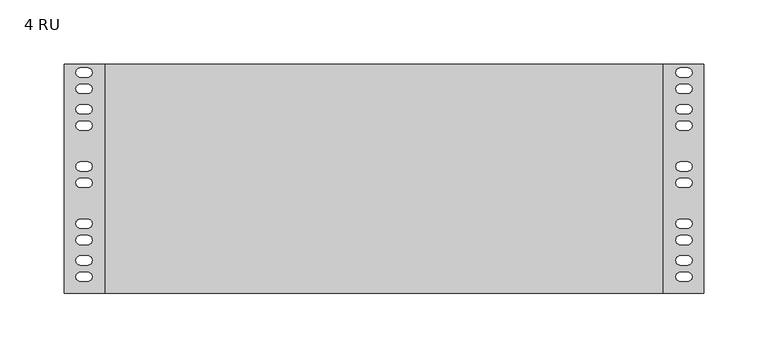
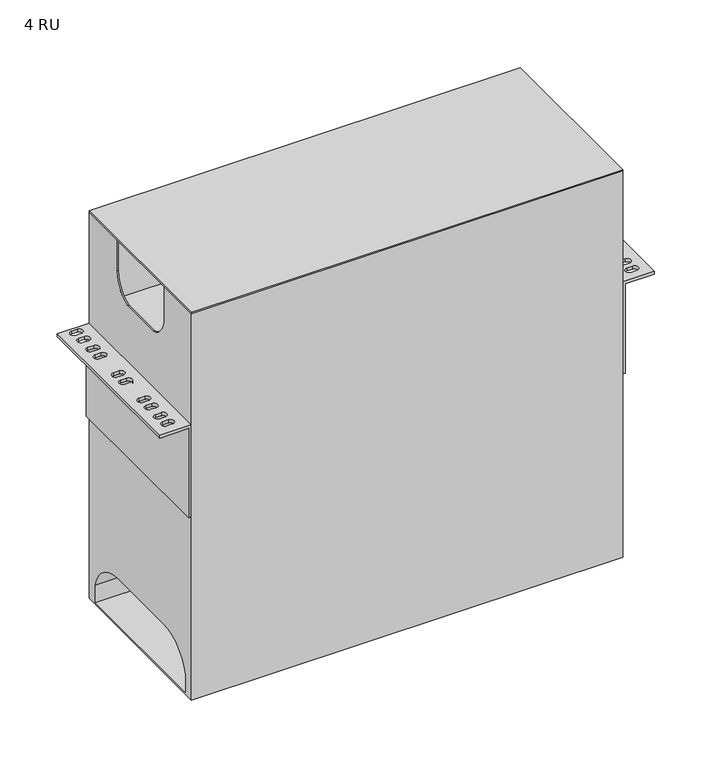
"""IFC4 building model written with IfcOpenShell, lengths in millimetres: electric appliance geometry, Housing-Rack_Mount-Corning-LANScape : 4 RU."""

from ifc_helpers import new_model, si_unit, frame, origin, place, context, project, spatial, polyline, circle_curve, outline, extrude, source, transform, mapped, element, save
from ifc_brep_helpers import plane_surface, revolved_surface, advanced_brep


def electric_appliance_4_ru_fc891053(model_context):
    return source(origin(), model_context, "Body", "SolidModel", [
        extrude(outline(polyline([(216.5858, 0.0), (216.5858, -177.8), (-216.5858, -177.8), (-216.5858, 0.0), (216.5858, 0.0)])), frame((0.0, 0.0, 120.9548), z_axis=(0.0, 0.0, 1.0), x_axis=(1.0, 0.0, 0.0)), (0.0, 0.0, 1.0), 1.39446),
        advanced_brep(
        [(216.5858, -177.8, 120.9548), (-216.5858, -177.8, 120.9548), (-216.5858, -177.8, -289.3568), (216.5858, -177.8, -289.3568), (216.5858, 0.0, 120.9548), (216.5858, 0.0, -289.3568), (-216.5858, 0.0, -289.3568), (-216.5858, 0.0, 120.9548), (216.5858, -130.812798, 120.9548), (214.9983, -130.812798, 120.9548), (214.9983, -176.2125, 120.9548), (-214.9983, -176.2125, 120.9548), (-214.9983, -130.812798, 120.9548), (-216.5858, -130.812798, 120.9548), (-216.5858, -48.107858, 120.9548), (-214.9983, -48.107858, 120.9548), (-214.9983, -1.5875, 120.9548), (214.9983, -1.5875, 120.9548), (214.9983, -48.107858, 120.9548), (216.5858, -48.107858, 120.9548), (-216.5858, -130.812798, 87.79002), (-216.5858, -111.5667166, 62.17412), (-216.5858, -67.3539395, 62.17412), (-216.5858, -48.107858, 87.79002), (-216.5858, -166.8399, -269.15872), (-216.5858, -166.8399, -287.7693), (-216.5858, -10.4648, -287.7693), (-216.5858, -10.4648, -269.15872), (-216.5858, -48.5648, -238.41202), (-216.5858, -128.95834, -238.41202), (216.5858, -48.107858, 87.79002), (216.5858, -67.3539395, 62.17412), (216.5858, -111.5667166, 62.17412), (216.5858, -130.812798, 87.79002), (216.5858, -166.8399, -287.7693), (216.5858, -166.8399, -269.15872), (216.5858, -128.95834, -238.41202), (216.5858, -48.5648, -238.41202), (216.5858, -10.4648, -269.15872), (216.5858, -10.4648, -287.7693), (-214.9983, -1.5875, 21.08454), (214.9983, -1.5875, 21.08454), (214.9983, -176.2125, 21.08454), (-214.9983, -176.2125, 21.08454), (214.9983, -130.812798, 87.79002), (214.9983, -111.5667166, 62.17412), (214.9983, -67.3539395, 62.17412), (214.9983, -48.107858, 87.79002), (-214.9983, -48.107858, 87.79002), (-214.9983, -67.3539395, 62.17412), (-214.9983, -111.5667166, 62.17412), (-214.9983, -130.812798, 87.79002)],
        [
            (0, 1),
            (1, 2),
            (2, 3),
            (3, 0),
            (4, 5),
            (5, 6),
            (6, 7),
            (7, 4),
            (0, 8),
            (8, 9),
            (9, 10),
            (10, 11),
            (11, 12),
            (12, 13),
            (13, 1),
            (7, 14),
            (14, 15),
            (15, 16),
            (16, 17),
            (17, 18),
            (18, 19),
            (19, 4),
            (13, 20),
            (20, 21, circle_curve(frame((-216.5858, -104.142798, 87.79002), z_axis=(1.0, 0.0, 0.0), x_axis=(0.0, 0.0, 1.0)), 26.67)),
            (21, 22),
            (22, 23, circle_curve(frame((-216.5858, -74.777858, 87.79002), z_axis=(1.0, 0.0, 0.0), x_axis=(0.0, 0.0, 1.0)), 26.67)),
            (23, 14),
            (6, 2),
            (24, 25),
            (25, 26),
            (26, 27),
            (27, 28, circle_curve(frame((-216.5858, -48.5648, -277.391318), z_axis=(1.0, 0.0, 0.0), x_axis=(0.0, 0.0, 1.0)), 38.979298)),
            (28, 29),
            (29, 24, circle_curve(frame((-216.5858, -128.95834, -277.1214124), z_axis=(1.0, 0.0, 0.0), x_axis=(0.0, 0.0, 1.0)), 38.7093924)),
            (5, 3),
            (19, 30),
            (30, 31, circle_curve(frame((216.5858, -74.777858, 87.79002), z_axis=(-1.0, 0.0, 0.0), x_axis=(0.0, 0.0, 1.0)), 26.67)),
            (31, 32),
            (32, 33, circle_curve(frame((216.5858, -104.142798, 87.79002), z_axis=(-1.0, 0.0, 0.0), x_axis=(0.0, 0.0, 1.0)), 26.67)),
            (33, 8),
            (34, 35),
            (35, 36, circle_curve(frame((216.5858, -128.95834, -277.1214124), z_axis=(-1.0, 0.0, 0.0), x_axis=(0.0, 0.0, 1.0)), 38.7093924)),
            (36, 37),
            (37, 38, circle_curve(frame((216.5858, -48.5648, -277.391318), z_axis=(-1.0, 0.0, 0.0), x_axis=(0.0, 0.0, 1.0)), 38.979298)),
            (38, 39),
            (39, 34),
            (16, 40),
            (40, 41),
            (41, 17),
            (10, 42),
            (42, 43),
            (43, 11),
            (41, 42),
            (9, 44),
            (44, 45, circle_curve(frame((214.9983, -104.142798, 87.79002), z_axis=(1.0, 0.0, 0.0), x_axis=(0.0, 0.0, 1.0)), 26.67)),
            (45, 46),
            (46, 47, circle_curve(frame((214.9983, -74.777858, 87.79002), z_axis=(1.0, 0.0, 0.0), x_axis=(0.0, 0.0, 1.0)), 26.67)),
            (47, 18),
            (40, 43),
            (15, 48),
            (48, 49, circle_curve(frame((-214.9983, -74.777858, 87.79002), z_axis=(-1.0, 0.0, 0.0), x_axis=(0.0, 0.0, 1.0)), 26.67)),
            (49, 50),
            (50, 51, circle_curve(frame((-214.9983, -104.142798, 87.79002), z_axis=(-1.0, 0.0, 0.0), x_axis=(0.0, 0.0, 1.0)), 26.67)),
            (51, 12),
            (33, 44),
            (51, 20),
            (32, 45),
            (50, 21),
            (31, 46),
            (49, 22),
            (30, 47),
            (48, 23),
            (24, 35),
            (34, 25),
            (39, 26),
            (38, 27),
            (37, 28),
            (36, 29),
        ],
        [
            plane_surface(frame((-216.5858, -177.8, 120.9548), z_axis=(0.0, -1.0, 0.0), x_axis=(-1.0, 0.0, 0.0))),
            plane_surface(frame((-216.5858, 0.0, 120.9548), z_axis=(0.0, 1.0, 0.0), x_axis=(1.0, 0.0, 0.0))),
            plane_surface(frame((216.5858, -177.8, 120.9548), z_axis=(0.0, 0.0, 1.0), x_axis=(0.0, 1.0, 0.0))),
            plane_surface(frame((-216.5858, -177.8, 120.9548), z_axis=(-1.0, 0.0, 0.0), x_axis=(0.0, 1.0, 0.0))),
            plane_surface(frame((-216.5858, -177.8, -289.3568), z_axis=(0.0, 0.0, -1.0), x_axis=(0.0, 1.0, 0.0))),
            plane_surface(frame((216.5858, -177.8, -289.3568), z_axis=(1.0, 0.0, 0.0), x_axis=(0.0, 1.0, 0.0))),
            plane_surface(frame((214.9983, -1.5875, 120.9548), z_axis=(0.0, -1.0, 0.0), x_axis=(0.0, 0.0, -1.0))),
            plane_surface(frame((214.9983, -176.2125, 120.9548), z_axis=(0.0, 1.0, 0.0), x_axis=(0.0, 0.0, 1.0))),
            plane_surface(frame((214.9983, -1.5875, 120.9548), z_axis=(-1.0, 0.0, 0.0), x_axis=(0.0, -1.0, 0.0))),
            plane_surface(frame((214.9983, -1.5875, 21.08454), z_axis=(0.0, 0.0, 1.0), x_axis=(0.0, -1.0, 0.0))),
            plane_surface(frame((-214.9983, -1.5875, 21.08454), z_axis=(1.0, 0.0, 0.0), x_axis=(0.0, -1.0, 0.0))),
            plane_surface(frame((216.5858, -130.812798, 126.53518), z_axis=(0.0, 1.0, 0.0), x_axis=(-1.0, 0.0, 0.0))),
            revolved_surface(polyline([(216.58580000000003, -104.142798, 114.46002), (214.9983, -104.142798, 114.46002)]), (-222.9358, -104.142798, 87.79002), (1.0, 0.0, 0.0)),
            revolved_surface(polyline([(-214.9983, -104.142798, 114.46002), (-216.5858, -104.142798, 114.46002)]), (-222.9358, -104.142798, 87.79002), (1.0, 0.0, 0.0)),
            plane_surface(frame((216.5858, -111.5667166, 62.17412), z_axis=(0.0, 0.0, 1.0), x_axis=(-1.0, 0.0, 0.0))),
            revolved_surface(polyline([(216.58580000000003, -74.777858, 114.46002), (214.9983, -74.777858, 114.46002)]), (-222.9358, -74.777858, 87.79002), (1.0, 0.0, 0.0)),
            revolved_surface(polyline([(-214.9983, -74.777858, 114.46002), (-216.5858, -74.777858, 114.46002)]), (-222.9358, -74.777858, 87.79002), (1.0, 0.0, 0.0)),
            plane_surface(frame((216.5858, -48.107858, 87.79002), z_axis=(0.0, -1.0, 0.0), x_axis=(-1.0, 0.0, 0.0))),
            plane_surface(frame((216.5858, -166.8399, -269.15872), z_axis=(0.0, 1.0, 0.0), x_axis=(-1.0, 0.0, 0.0))),
            plane_surface(frame((216.5858, -166.8399, -287.7693), z_axis=(0.0, 0.0, 1.0), x_axis=(-1.0, 0.0, 0.0))),
            plane_surface(frame((216.5858, -10.4648, -287.7693), z_axis=(0.0, -1.0, 0.0), x_axis=(-1.0, 0.0, 0.0))),
            revolved_surface(polyline([(216.58580000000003, -48.5648, -238.41202), (-216.5858, -48.5648, -238.41202)]), (-222.9358, -48.5648, -277.391318), (1.0, 0.0, 0.0)),
            plane_surface(frame((216.5858, -48.5648, -238.41202), z_axis=(0.0, 0.0, -1.0), x_axis=(-1.0, 0.0, 0.0))),
            revolved_surface(polyline([(216.58580000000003, -128.95834, -238.41201999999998), (-216.5858, -128.95834, -238.41201999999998)]), (-222.9358, -128.95834, -277.1214124), (1.0, 0.0, 0.0)),
        ],
        [
            (0, [[1, 2, 3, 4]]),
            (1, [[5, 6, 7, 8]]),
            (2, [[-1, 9, 10, 11, 12, 13, 14, 15]]),
            (2, [[-8, 16, 17, 18, 19, 20, 21, 22]]),
            (3, [[-2, -15, 23, 24, 25, 26, 27, -16, -7, 28], [29, 30, 31, 32, 33, 34]]),
            (4, [[-3, -28, -6, 35]]),
            (5, [[-4, -35, -5, -22, 36, 37, 38, 39, 40, -9], [41, 42, 43, 44, 45, 46]]),
            (6, [[47, 48, 49, -19]]),
            (7, [[50, 51, 52, -12]]),
            (8, [[-49, 53, -50, -11, 54, 55, 56, 57, 58, -20]]),
            (9, [[-48, 59, -51, -53]]),
            (10, [[-47, -18, 60, 61, 62, 63, 64, -13, -52, -59]]),
            (11, [[65, -54, -10, -40]]),
            (11, [[66, -23, -14, -64]]),
            (12, [[-65, -39, 67, -55]]),
            (13, [[-66, -63, 68, -24]]),
            (14, [[-67, -38, 69, -56]]),
            (14, [[-68, -62, 70, -25]]),
            (15, [[-69, -37, 71, -57]]),
            (16, [[-70, -61, 72, -26]]),
            (17, [[-71, -36, -21, -58]]),
            (17, [[-72, -60, -17, -27]]),
            (18, [[73, -41, 74, -29]]),
            (19, [[-74, -46, 75, -30]]),
            (20, [[-75, -45, 76, -31]]),
            (21, [[-76, -44, 77, -32]]),
            (22, [[-77, -43, 78, -33]]),
            (23, [[-73, -34, -78, -42]]),
        ],
    ),
        advanced_brep(
        [(-248.4374, -177.8, 0.0), (-219.45346, -177.8, 0.0), (-219.45346, -177.8, -94.74708), (-216.5858, -177.8, -94.74708), (-216.5858, -177.8, 3.05054), (-248.4374, -177.8, 3.05054), (-248.4374, 0.0, 0.0), (-248.4374, 0.0, 3.05054), (-216.5858, 0.0, 3.05054), (-216.5858, 0.0, -94.74708), (-219.45346, 0.0, -94.74708), (-219.45346, 0.0, 0.0), (-230.3272, -2.794, 0.0), (-235.9152, -2.794, 0.0), (-235.9152, -9.906, 0.0), (-230.3272, -9.906, 0.0), (-230.3272, -15.494, 0.0), (-235.9152, -15.494, 0.0), (-235.9152, -22.606, 0.0), (-230.3272, -22.606, 0.0), (-230.3272, -31.369, 0.0), (-235.9152, -31.369, 0.0), (-235.9152, -38.481, 0.0), (-230.3272, -38.481, 0.0), (-230.3272, -44.069, 0.0), (-235.9152, -44.069, 0.0), (-235.9152, -51.181, 0.0), (-230.3272, -51.181, 0.0), (-230.3272, -75.819, 0.0), (-235.9152, -75.819, 0.0), (-235.9152, -82.931, 0.0), (-230.3272, -82.931, 0.0), (-230.3272, -88.519, 0.0), (-235.9152, -88.519, 0.0), (-235.9152, -95.631, 0.0), (-230.3272, -95.631, 0.0), (-230.3272, -120.269, 0.0), (-235.9152, -120.269, 0.0), (-235.9152, -127.381, 0.0), (-230.3272, -127.381, 0.0), (-230.3272, -132.969, 0.0), (-235.9152, -132.969, 0.0), (-235.9152, -140.081, 0.0), (-230.3272, -140.081, 0.0), (-230.3272, -148.844, 0.0), (-235.9152, -148.844, 0.0), (-235.9152, -155.956, 0.0), (-230.3272, -155.956, 0.0), (-230.3272, -161.544, 0.0), (-235.9152, -161.544, 0.0), (-235.9152, -168.656, 0.0), (-230.3272, -168.656, 0.0), (-235.9152, -2.794, 3.05054), (-230.3272, -2.794, 3.05054), (-230.3272, -9.906, 3.05054), (-235.9152, -9.906, 3.05054), (-235.9152, -15.494, 3.05054), (-230.3272, -15.494, 3.05054), (-230.3272, -22.606, 3.05054), (-235.9152, -22.606, 3.05054), (-235.9152, -31.369, 3.05054), (-230.3272, -31.369, 3.05054), (-230.3272, -38.481, 3.05054), (-235.9152, -38.481, 3.05054), (-235.9152, -44.069, 3.05054), (-230.3272, -44.069, 3.05054), (-230.3272, -51.181, 3.05054), (-235.9152, -51.181, 3.05054), (-235.9152, -75.819, 3.05054), (-230.3272, -75.819, 3.05054), (-230.3272, -82.931, 3.05054), (-235.9152, -82.931, 3.05054), (-235.9152, -88.519, 3.05054), (-230.3272, -88.519, 3.05054), (-230.3272, -95.631, 3.05054), (-235.9152, -95.631, 3.05054), (-235.9152, -120.269, 3.05054), (-230.3272, -120.269, 3.05054), (-230.3272, -127.381, 3.05054), (-235.9152, -127.381, 3.05054), (-235.9152, -132.969, 3.05054), (-230.3272, -132.969, 3.05054), (-230.3272, -140.081, 3.05054), (-235.9152, -140.081, 3.05054), (-235.9152, -148.844, 3.05054), (-230.3272, -148.844, 3.05054), (-230.3272, -155.956, 3.05054), (-235.9152, -155.956, 3.05054), (-235.9152, -161.544, 3.05054), (-230.3272, -161.544, 3.05054), (-230.3272, -168.656, 3.05054), (-235.9152, -168.656, 3.05054)],
        [
            (0, 1),
            (1, 2),
            (2, 3),
            (3, 4),
            (4, 5),
            (5, 0),
            (6, 7),
            (7, 8),
            (8, 9),
            (9, 10),
            (10, 11),
            (11, 6),
            (0, 6),
            (11, 1),
            (12, 13),
            (13, 14, circle_curve(frame((-235.9152, -6.35, 0.0), z_axis=(0.0, 0.0, 1.0), x_axis=(-1.0, 0.0, 0.0)), 3.556)),
            (14, 15),
            (15, 12, circle_curve(frame((-230.3272, -6.35, 0.0), z_axis=(0.0, 0.0, 1.0), x_axis=(-1.0, 0.0, 0.0)), 3.556)),
            (16, 17),
            (17, 18, circle_curve(frame((-235.9152, -19.05, 0.0), z_axis=(0.0, 0.0, 1.0), x_axis=(-1.0, 0.0, 0.0)), 3.556)),
            (18, 19),
            (19, 16, circle_curve(frame((-230.3272, -19.05, 0.0), z_axis=(0.0, 0.0, 1.0), x_axis=(-1.0, 0.0, 0.0)), 3.556)),
            (20, 21),
            (21, 22, circle_curve(frame((-235.9152, -34.925, 0.0), z_axis=(0.0, 0.0, 1.0), x_axis=(-1.0, 0.0, 0.0)), 3.556)),
            (22, 23),
            (23, 20, circle_curve(frame((-230.3272, -34.925, 0.0), z_axis=(0.0, 0.0, 1.0), x_axis=(-1.0, 0.0, 0.0)), 3.556)),
            (24, 25),
            (25, 26, circle_curve(frame((-235.9152, -47.625, 0.0), z_axis=(0.0, 0.0, 1.0), x_axis=(-1.0, 0.0, 0.0)), 3.556)),
            (26, 27),
            (27, 24, circle_curve(frame((-230.3272, -47.625, 0.0), z_axis=(0.0, 0.0, 1.0), x_axis=(-1.0, 0.0, 0.0)), 3.556)),
            (28, 29),
            (29, 30, circle_curve(frame((-235.9152, -79.375, 0.0), z_axis=(0.0, 0.0, 1.0), x_axis=(-1.0, 0.0, 0.0)), 3.556)),
            (30, 31),
            (31, 28, circle_curve(frame((-230.3272, -79.375, 0.0), z_axis=(0.0, 0.0, 1.0), x_axis=(-1.0, 0.0, 0.0)), 3.556)),
            (32, 33),
            (33, 34, circle_curve(frame((-235.9152, -92.075, 0.0), z_axis=(0.0, 0.0, 1.0), x_axis=(-1.0, 0.0, 0.0)), 3.556)),
            (34, 35),
            (35, 32, circle_curve(frame((-230.3272, -92.075, 0.0), z_axis=(0.0, 0.0, 1.0), x_axis=(-1.0, 0.0, 0.0)), 3.556)),
            (36, 37),
            (37, 38, circle_curve(frame((-235.9152, -123.825, 0.0), z_axis=(0.0, 0.0, 1.0), x_axis=(-1.0, 0.0, 0.0)), 3.556)),
            (38, 39),
            (39, 36, circle_curve(frame((-230.3272, -123.825, 0.0), z_axis=(0.0, 0.0, 1.0), x_axis=(-1.0, 0.0, 0.0)), 3.556)),
            (40, 41),
            (41, 42, circle_curve(frame((-235.9152, -136.525, 0.0), z_axis=(0.0, 0.0, 1.0), x_axis=(-1.0, 0.0, 0.0)), 3.556)),
            (42, 43),
            (43, 40, circle_curve(frame((-230.3272, -136.525, 0.0), z_axis=(0.0, 0.0, 1.0), x_axis=(-1.0, 0.0, 0.0)), 3.556)),
            (44, 45),
            (45, 46, circle_curve(frame((-235.9152, -152.4, 0.0), z_axis=(0.0, 0.0, 1.0), x_axis=(-1.0, 0.0, 0.0)), 3.556)),
            (46, 47),
            (47, 44, circle_curve(frame((-230.3272, -152.4, 0.0), z_axis=(0.0, 0.0, 1.0), x_axis=(-1.0, 0.0, 0.0)), 3.556)),
            (48, 49),
            (49, 50, circle_curve(frame((-235.9152, -165.1, 0.0), z_axis=(0.0, 0.0, 1.0), x_axis=(-1.0, 0.0, 0.0)), 3.556)),
            (50, 51),
            (51, 48, circle_curve(frame((-230.3272, -165.1, 0.0), z_axis=(0.0, 0.0, 1.0), x_axis=(-1.0, 0.0, 0.0)), 3.556)),
            (10, 2),
            (9, 3),
            (8, 4),
            (7, 5),
            (52, 53),
            (53, 54, circle_curve(frame((-230.3272, -6.35, 3.05054), z_axis=(0.0, 0.0, -1.0), x_axis=(-1.0, 0.0, 0.0)), 3.556)),
            (54, 55),
            (55, 52, circle_curve(frame((-235.9152, -6.35, 3.05054), z_axis=(0.0, 0.0, -1.0), x_axis=(-1.0, 0.0, 0.0)), 3.556)),
            (56, 57),
            (57, 58, circle_curve(frame((-230.3272, -19.05, 3.05054), z_axis=(0.0, 0.0, -1.0), x_axis=(-1.0, 0.0, 0.0)), 3.556)),
            (58, 59),
            (59, 56, circle_curve(frame((-235.9152, -19.05, 3.05054), z_axis=(0.0, 0.0, -1.0), x_axis=(-1.0, 0.0, 0.0)), 3.556)),
            (60, 61),
            (61, 62, circle_curve(frame((-230.3272, -34.925, 3.05054), z_axis=(0.0, 0.0, -1.0), x_axis=(-1.0, 0.0, 0.0)), 3.556)),
            (62, 63),
            (63, 60, circle_curve(frame((-235.9152, -34.925, 3.05054), z_axis=(0.0, 0.0, -1.0), x_axis=(-1.0, 0.0, 0.0)), 3.556)),
            (64, 65),
            (65, 66, circle_curve(frame((-230.3272, -47.625, 3.05054), z_axis=(0.0, 0.0, -1.0), x_axis=(-1.0, 0.0, 0.0)), 3.556)),
            (66, 67),
            (67, 64, circle_curve(frame((-235.9152, -47.625, 3.05054), z_axis=(0.0, 0.0, -1.0), x_axis=(-1.0, 0.0, 0.0)), 3.556)),
            (68, 69),
            (69, 70, circle_curve(frame((-230.3272, -79.375, 3.05054), z_axis=(0.0, 0.0, -1.0), x_axis=(-1.0, 0.0, 0.0)), 3.556)),
            (70, 71),
            (71, 68, circle_curve(frame((-235.9152, -79.375, 3.05054), z_axis=(0.0, 0.0, -1.0), x_axis=(-1.0, 0.0, 0.0)), 3.556)),
            (72, 73),
            (73, 74, circle_curve(frame((-230.3272, -92.075, 3.05054), z_axis=(0.0, 0.0, -1.0), x_axis=(-1.0, 0.0, 0.0)), 3.556)),
            (74, 75),
            (75, 72, circle_curve(frame((-235.9152, -92.075, 3.05054), z_axis=(0.0, 0.0, -1.0), x_axis=(-1.0, 0.0, 0.0)), 3.556)),
            (76, 77),
            (77, 78, circle_curve(frame((-230.3272, -123.825, 3.05054), z_axis=(0.0, 0.0, -1.0), x_axis=(-1.0, 0.0, 0.0)), 3.556)),
            (78, 79),
            (79, 76, circle_curve(frame((-235.9152, -123.825, 3.05054), z_axis=(0.0, 0.0, -1.0), x_axis=(-1.0, 0.0, 0.0)), 3.556)),
            (80, 81),
            (81, 82, circle_curve(frame((-230.3272, -136.525, 3.05054), z_axis=(0.0, 0.0, -1.0), x_axis=(-1.0, 0.0, 0.0)), 3.556)),
            (82, 83),
            (83, 80, circle_curve(frame((-235.9152, -136.525, 3.05054), z_axis=(0.0, 0.0, -1.0), x_axis=(-1.0, 0.0, 0.0)), 3.556)),
            (84, 85),
            (85, 86, circle_curve(frame((-230.3272, -152.4, 3.05054), z_axis=(0.0, 0.0, -1.0), x_axis=(-1.0, 0.0, 0.0)), 3.556)),
            (86, 87),
            (87, 84, circle_curve(frame((-235.9152, -152.4, 3.05054), z_axis=(0.0, 0.0, -1.0), x_axis=(-1.0, 0.0, 0.0)), 3.556)),
            (88, 89),
            (89, 90, circle_curve(frame((-230.3272, -165.1, 3.05054), z_axis=(0.0, 0.0, -1.0), x_axis=(-1.0, 0.0, 0.0)), 3.556)),
            (90, 91),
            (91, 88, circle_curve(frame((-235.9152, -165.1, 3.05054), z_axis=(0.0, 0.0, -1.0), x_axis=(-1.0, 0.0, 0.0)), 3.556)),
            (52, 13),
            (12, 53),
            (55, 14),
            (54, 15),
            (56, 17),
            (16, 57),
            (59, 18),
            (58, 19),
            (60, 21),
            (20, 61),
            (63, 22),
            (62, 23),
            (64, 25),
            (24, 65),
            (67, 26),
            (66, 27),
            (68, 29),
            (28, 69),
            (71, 30),
            (70, 31),
            (72, 33),
            (32, 73),
            (75, 34),
            (74, 35),
            (76, 37),
            (36, 77),
            (79, 38),
            (78, 39),
            (80, 41),
            (40, 81),
            (83, 42),
            (82, 43),
            (84, 45),
            (44, 85),
            (87, 46),
            (86, 47),
            (88, 49),
            (48, 89),
            (91, 50),
            (90, 51),
        ],
        [
            plane_surface(frame((-216.5858, -177.8, 0.0), z_axis=(0.0, -1.0, 0.0), x_axis=(1.0, 0.0, 0.0))),
            plane_surface(frame((-216.5858, 0.0, 0.0), z_axis=(0.0, 1.0, 0.0), x_axis=(-1.0, 0.0, 0.0))),
            plane_surface(frame((-248.4374, -177.8, 0.0), z_axis=(0.0, 0.0, -1.0), x_axis=(0.0, 1.0, 0.0))),
            plane_surface(frame((-219.45346, -177.8, 0.0), z_axis=(-1.0, 0.0, 0.0), x_axis=(0.0, 1.0, 0.0))),
            plane_surface(frame((-219.45346, -177.8, -94.74708), z_axis=(0.0, 0.0, -1.0), x_axis=(0.0, 1.0, 0.0))),
            plane_surface(frame((-216.5858, -177.8, -94.74708), z_axis=(1.0, 0.0, 0.0), x_axis=(0.0, 1.0, 0.0))),
            plane_surface(frame((-216.5858, -177.8, 3.05054), z_axis=(0.0, 0.0, 1.0), x_axis=(0.0, 1.0, 0.0))),
            plane_surface(frame((-248.4374, -177.8, 3.05054), z_axis=(-1.0, 0.0, 0.0), x_axis=(0.0, 1.0, 0.0))),
            plane_surface(frame((-230.3272, -2.794, 3.05054), z_axis=(0.0, -1.0, 0.0), x_axis=(0.0, 0.0, -1.0))),
            revolved_surface(polyline([(-239.4712, -6.35, 3.05054), (-239.4712, -6.35, 0.0)]), (-235.9152, -6.35, 0.0), (0.0, 0.0, 1.0)),
            plane_surface(frame((-235.9152, -9.906, 3.05054), z_axis=(0.0, 1.0, 0.0), x_axis=(0.0, 0.0, -1.0))),
            revolved_surface(polyline([(-233.88320000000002, -6.35, 3.05054), (-233.88320000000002, -6.35, 0.0)]), (-230.3272, -6.35, 0.0), (0.0, 0.0, 1.0)),
            plane_surface(frame((-230.3272, -15.494, 3.05054), z_axis=(0.0, -1.0, 0.0), x_axis=(0.0, 0.0, -1.0))),
            revolved_surface(polyline([(-239.4712, -19.05, 3.05054), (-239.4712, -19.05, 0.0)]), (-235.9152, -19.05, 0.0), (0.0, 0.0, 1.0)),
            plane_surface(frame((-235.9152, -22.606, 3.05054), z_axis=(0.0, 1.0, 0.0), x_axis=(0.0, 0.0, -1.0))),
            revolved_surface(polyline([(-233.88320000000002, -19.05, 3.05054), (-233.88320000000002, -19.05, 0.0)]), (-230.3272, -19.05, 0.0), (0.0, 0.0, 1.0)),
            plane_surface(frame((-230.3272, -31.369, 3.05054), z_axis=(0.0, -1.0, 0.0), x_axis=(0.0, 0.0, -1.0))),
            revolved_surface(polyline([(-239.4712, -34.925, 3.05054), (-239.4712, -34.925, 0.0)]), (-235.9152, -34.925, 0.0), (0.0, 0.0, 1.0)),
            plane_surface(frame((-235.9152, -38.481, 3.05054), z_axis=(0.0, 1.0, 0.0), x_axis=(0.0, 0.0, -1.0))),
            revolved_surface(polyline([(-233.88320000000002, -34.925, 3.05054), (-233.88320000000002, -34.925, 0.0)]), (-230.3272, -34.925, 0.0), (0.0, 0.0, 1.0)),
            plane_surface(frame((-230.3272, -44.069, 3.05054), z_axis=(0.0, -1.0, 0.0), x_axis=(0.0, 0.0, -1.0))),
            revolved_surface(polyline([(-239.4712, -47.625, 3.05054), (-239.4712, -47.625, 0.0)]), (-235.9152, -47.625, 0.0), (0.0, 0.0, 1.0)),
            plane_surface(frame((-235.9152, -51.181, 3.05054), z_axis=(0.0, 1.0, 0.0), x_axis=(0.0, 0.0, -1.0))),
            revolved_surface(polyline([(-233.88320000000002, -47.625, 3.05054), (-233.88320000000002, -47.625, 0.0)]), (-230.3272, -47.625, 0.0), (0.0, 0.0, 1.0)),
            plane_surface(frame((-230.3272, -75.819, 3.05054), z_axis=(0.0, -1.0, 0.0), x_axis=(0.0, 0.0, -1.0))),
            revolved_surface(polyline([(-239.4712, -79.375, 3.05054), (-239.4712, -79.375, 0.0)]), (-235.9152, -79.375, 0.0), (0.0, 0.0, 1.0)),
            plane_surface(frame((-235.9152, -82.931, 3.05054), z_axis=(0.0, 1.0, 0.0), x_axis=(0.0, 0.0, -1.0))),
            revolved_surface(polyline([(-233.88320000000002, -79.375, 3.05054), (-233.88320000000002, -79.375, 0.0)]), (-230.3272, -79.375, 0.0), (0.0, 0.0, 1.0)),
            plane_surface(frame((-230.3272, -88.519, 3.05054), z_axis=(0.0, -1.0, 0.0), x_axis=(0.0, 0.0, -1.0))),
            revolved_surface(polyline([(-239.4712, -92.075, 3.05054), (-239.4712, -92.075, 0.0)]), (-235.9152, -92.075, 0.0), (0.0, 0.0, 1.0)),
            plane_surface(frame((-235.9152, -95.631, 3.05054), z_axis=(0.0, 1.0, 0.0), x_axis=(0.0, 0.0, -1.0))),
            revolved_surface(polyline([(-233.88320000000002, -92.075, 3.05054), (-233.88320000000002, -92.075, 0.0)]), (-230.3272, -92.075, 0.0), (0.0, 0.0, 1.0)),
            plane_surface(frame((-230.3272, -120.269, 3.05054), z_axis=(0.0, -1.0, 0.0), x_axis=(0.0, 0.0, -1.0))),
            revolved_surface(polyline([(-239.4712, -123.825, 3.05054), (-239.4712, -123.825, 0.0)]), (-235.9152, -123.825, 0.0), (0.0, 0.0, 1.0)),
            plane_surface(frame((-235.9152, -127.381, 3.05054), z_axis=(0.0, 1.0, 0.0), x_axis=(0.0, 0.0, -1.0))),
            revolved_surface(polyline([(-233.88320000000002, -123.825, 3.05054), (-233.88320000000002, -123.825, 0.0)]), (-230.3272, -123.825, 0.0), (0.0, 0.0, 1.0)),
            plane_surface(frame((-230.3272, -132.969, 3.05054), z_axis=(0.0, -1.0, 0.0), x_axis=(0.0, 0.0, -1.0))),
            revolved_surface(polyline([(-239.4712, -136.525, 3.05054), (-239.4712, -136.525, 0.0)]), (-235.9152, -136.525, 0.0), (0.0, 0.0, 1.0)),
            plane_surface(frame((-235.9152, -140.081, 3.05054), z_axis=(0.0, 1.0, 0.0), x_axis=(0.0, 0.0, -1.0))),
            revolved_surface(polyline([(-233.88320000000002, -136.525, 3.05054), (-233.88320000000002, -136.525, 0.0)]), (-230.3272, -136.525, 0.0), (0.0, 0.0, 1.0)),
            plane_surface(frame((-230.3272, -148.844, 3.05054), z_axis=(0.0, -1.0, 0.0), x_axis=(0.0, 0.0, -1.0))),
            revolved_surface(polyline([(-239.4712, -152.4, 3.05054), (-239.4712, -152.4, 0.0)]), (-235.9152, -152.4, 0.0), (0.0, 0.0, 1.0)),
            plane_surface(frame((-235.9152, -155.956, 3.05054), z_axis=(0.0, 1.0, 0.0), x_axis=(0.0, 0.0, -1.0))),
            revolved_surface(polyline([(-233.88320000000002, -152.4, 3.05054), (-233.88320000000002, -152.4, 0.0)]), (-230.3272, -152.4, 0.0), (0.0, 0.0, 1.0)),
            plane_surface(frame((-230.3272, -161.544, 3.05054), z_axis=(0.0, -1.0, 0.0), x_axis=(0.0, 0.0, -1.0))),
            revolved_surface(polyline([(-239.4712, -165.1, 3.05054), (-239.4712, -165.1, 0.0)]), (-235.9152, -165.1, 0.0), (0.0, 0.0, 1.0)),
            plane_surface(frame((-235.9152, -168.656, 3.05054), z_axis=(0.0, 1.0, 0.0), x_axis=(0.0, 0.0, -1.0))),
            revolved_surface(polyline([(-233.88320000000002, -165.1, 3.05054), (-233.88320000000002, -165.1, 0.0)]), (-230.3272, -165.1, 0.0), (0.0, 0.0, 1.0)),
        ],
        [
            (0, [[1, 2, 3, 4, 5, 6]]),
            (1, [[7, 8, 9, 10, 11, 12]]),
            (2, [[-1, 13, -12, 14], [15, 16, 17, 18], [19, 20, 21, 22], [23, 24, 25, 26], [27, 28, 29, 30], [31, 32, 33, 34], [35, 36, 37, 38], [39, 40, 41, 42], [43, 44, 45, 46], [47, 48, 49, 50], [51, 52, 53, 54]]),
            (3, [[-2, -14, -11, 55]]),
            (4, [[-3, -55, -10, 56]]),
            (5, [[-4, -56, -9, 57]]),
            (6, [[-5, -57, -8, 58], [59, 60, 61, 62], [63, 64, 65, 66], [67, 68, 69, 70], [71, 72, 73, 74], [75, 76, 77, 78], [79, 80, 81, 82], [83, 84, 85, 86], [87, 88, 89, 90], [91, 92, 93, 94], [95, 96, 97, 98]]),
            (7, [[-6, -58, -7, -13]]),
            (8, [[99, -15, 100, -59]]),
            (9, [[-99, -62, 101, -16]]),
            (10, [[-101, -61, 102, -17]]),
            (11, [[-100, -18, -102, -60]]),
            (12, [[103, -19, 104, -63]]),
            (13, [[-103, -66, 105, -20]]),
            (14, [[-105, -65, 106, -21]]),
            (15, [[-104, -22, -106, -64]]),
            (16, [[107, -23, 108, -67]]),
            (17, [[-107, -70, 109, -24]]),
            (18, [[-109, -69, 110, -25]]),
            (19, [[-108, -26, -110, -68]]),
            (20, [[111, -27, 112, -71]]),
            (21, [[-111, -74, 113, -28]]),
            (22, [[-113, -73, 114, -29]]),
            (23, [[-112, -30, -114, -72]]),
            (24, [[115, -31, 116, -75]]),
            (25, [[-115, -78, 117, -32]]),
            (26, [[-117, -77, 118, -33]]),
            (27, [[-116, -34, -118, -76]]),
            (28, [[119, -35, 120, -79]]),
            (29, [[-119, -82, 121, -36]]),
            (30, [[-121, -81, 122, -37]]),
            (31, [[-120, -38, -122, -80]]),
            (32, [[123, -39, 124, -83]]),
            (33, [[-123, -86, 125, -40]]),
            (34, [[-125, -85, 126, -41]]),
            (35, [[-124, -42, -126, -84]]),
            (36, [[127, -43, 128, -87]]),
            (37, [[-127, -90, 129, -44]]),
            (38, [[-129, -89, 130, -45]]),
            (39, [[-128, -46, -130, -88]]),
            (40, [[131, -47, 132, -91]]),
            (41, [[-131, -94, 133, -48]]),
            (42, [[-133, -93, 134, -49]]),
            (43, [[-132, -50, -134, -92]]),
            (44, [[135, -51, 136, -95]]),
            (45, [[-135, -98, 137, -52]]),
            (46, [[-137, -97, 138, -53]]),
            (47, [[-136, -54, -138, -96]]),
        ],
    ),
        advanced_brep(
        [(248.4374, -177.8, 0.0), (248.4374, -177.8, 3.05054), (216.5858, -177.8, 3.05054), (216.5858, -177.8, -94.74708), (219.45346, -177.8, -94.74708), (219.45346, -177.8, 0.0), (248.4374, 0.0, 0.0), (219.45346, 0.0, 0.0), (219.45346, 0.0, -94.74708), (216.5858, 0.0, -94.74708), (216.5858, 0.0, 3.05054), (248.4374, 0.0, 3.05054), (230.3272, -9.906, 3.05054), (230.3272, -2.794, 3.05054), (235.9152, -2.794, 3.05054), (235.9152, -9.906, 3.05054), (230.3272, -22.606, 3.05054), (230.3272, -15.494, 3.05054), (235.9152, -15.494, 3.05054), (235.9152, -22.606, 3.05054), (230.3272, -38.481, 3.05054), (230.3272, -31.369, 3.05054), (235.9152, -31.369, 3.05054), (235.9152, -38.481, 3.05054), (230.3272, -51.181, 3.05054), (230.3272, -44.069, 3.05054), (235.9152, -44.069, 3.05054), (235.9152, -51.181, 3.05054), (230.3272, -82.931, 3.05054), (230.3272, -75.819, 3.05054), (235.9152, -75.819, 3.05054), (235.9152, -82.931, 3.05054), (230.3272, -95.631, 3.05054), (230.3272, -88.519, 3.05054), (235.9152, -88.519, 3.05054), (235.9152, -95.631, 3.05054), (230.3272, -127.381, 3.05054), (230.3272, -120.269, 3.05054), (235.9152, -120.269, 3.05054), (235.9152, -127.381, 3.05054), (230.3272, -140.081, 3.05054), (230.3272, -132.969, 3.05054), (235.9152, -132.969, 3.05054), (235.9152, -140.081, 3.05054), (230.3272, -155.956, 3.05054), (230.3272, -148.844, 3.05054), (235.9152, -148.844, 3.05054), (235.9152, -155.956, 3.05054), (230.3272, -168.656, 3.05054), (230.3272, -161.544, 3.05054), (235.9152, -161.544, 3.05054), (235.9152, -168.656, 3.05054), (230.3272, -2.794, 0.0), (230.3272, -9.906, 0.0), (235.9152, -9.906, 0.0), (235.9152, -2.794, 0.0), (230.3272, -15.494, 0.0), (230.3272, -22.606, 0.0), (235.9152, -22.606, 0.0), (235.9152, -15.494, 0.0), (230.3272, -31.369, 0.0), (230.3272, -38.481, 0.0), (235.9152, -38.481, 0.0), (235.9152, -31.369, 0.0), (230.3272, -44.069, 0.0), (230.3272, -51.181, 0.0), (235.9152, -51.181, 0.0), (235.9152, -44.069, 0.0), (230.3272, -75.819, 0.0), (230.3272, -82.931, 0.0), (235.9152, -82.931, 0.0), (235.9152, -75.819, 0.0), (230.3272, -88.519, 0.0), (230.3272, -95.631, 0.0), (235.9152, -95.631, 0.0), (235.9152, -88.519, 0.0), (230.3272, -120.269, 0.0), (230.3272, -127.381, 0.0), (235.9152, -127.381, 0.0), (235.9152, -120.269, 0.0), (230.3272, -132.969, 0.0), (230.3272, -140.081, 0.0), (235.9152, -140.081, 0.0), (235.9152, -132.969, 0.0), (230.3272, -148.844, 0.0), (230.3272, -155.956, 0.0), (235.9152, -155.956, 0.0), (235.9152, -148.844, 0.0), (230.3272, -161.544, 0.0), (230.3272, -168.656, 0.0), (235.9152, -168.656, 0.0), (235.9152, -161.544, 0.0)],
        [
            (0, 1),
            (1, 2),
            (2, 3),
            (3, 4),
            (4, 5),
            (5, 0),
            (6, 7),
            (7, 8),
            (8, 9),
            (9, 10),
            (10, 11),
            (11, 6),
            (0, 6),
            (11, 1),
            (10, 2),
            (12, 13, circle_curve(frame((230.3272, -6.35, 3.05054), z_axis=(0.0, 0.0, -1.0), x_axis=(-1.0, 0.0, 0.0)), 3.556)),
            (13, 14),
            (14, 15, circle_curve(frame((235.9152, -6.35, 3.05054), z_axis=(0.0, 0.0, -1.0), x_axis=(-1.0, 0.0, 0.0)), 3.556)),
            (15, 12),
            (16, 17, circle_curve(frame((230.3272, -19.05, 3.05054), z_axis=(0.0, 0.0, -1.0), x_axis=(-1.0, 0.0, 0.0)), 3.556)),
            (17, 18),
            (18, 19, circle_curve(frame((235.9152, -19.05, 3.05054), z_axis=(0.0, 0.0, -1.0), x_axis=(-1.0, 0.0, 0.0)), 3.556)),
            (19, 16),
            (20, 21, circle_curve(frame((230.3272, -34.925, 3.05054), z_axis=(0.0, 0.0, -1.0), x_axis=(-1.0, 0.0, 0.0)), 3.556)),
            (21, 22),
            (22, 23, circle_curve(frame((235.9152, -34.925, 3.05054), z_axis=(0.0, 0.0, -1.0), x_axis=(-1.0, 0.0, 0.0)), 3.556)),
            (23, 20),
            (24, 25, circle_curve(frame((230.3272, -47.625, 3.05054), z_axis=(0.0, 0.0, -1.0), x_axis=(-1.0, 0.0, 0.0)), 3.556)),
            (25, 26),
            (26, 27, circle_curve(frame((235.9152, -47.625, 3.05054), z_axis=(0.0, 0.0, -1.0), x_axis=(-1.0, 0.0, 0.0)), 3.556)),
            (27, 24),
            (28, 29, circle_curve(frame((230.3272, -79.375, 3.05054), z_axis=(0.0, 0.0, -1.0), x_axis=(-1.0, 0.0, 0.0)), 3.556)),
            (29, 30),
            (30, 31, circle_curve(frame((235.9152, -79.375, 3.05054), z_axis=(0.0, 0.0, -1.0), x_axis=(-1.0, 0.0, 0.0)), 3.556)),
            (31, 28),
            (32, 33, circle_curve(frame((230.3272, -92.075, 3.05054), z_axis=(0.0, 0.0, -1.0), x_axis=(-1.0, 0.0, 0.0)), 3.556)),
            (33, 34),
            (34, 35, circle_curve(frame((235.9152, -92.075, 3.05054), z_axis=(0.0, 0.0, -1.0), x_axis=(-1.0, 0.0, 0.0)), 3.556)),
            (35, 32),
            (36, 37, circle_curve(frame((230.3272, -123.825, 3.05054), z_axis=(0.0, 0.0, -1.0), x_axis=(-1.0, 0.0, 0.0)), 3.556)),
            (37, 38),
            (38, 39, circle_curve(frame((235.9152, -123.825, 3.05054), z_axis=(0.0, 0.0, -1.0), x_axis=(-1.0, 0.0, 0.0)), 3.556)),
            (39, 36),
            (40, 41, circle_curve(frame((230.3272, -136.525, 3.05054), z_axis=(0.0, 0.0, -1.0), x_axis=(-1.0, 0.0, 0.0)), 3.556)),
            (41, 42),
            (42, 43, circle_curve(frame((235.9152, -136.525, 3.05054), z_axis=(0.0, 0.0, -1.0), x_axis=(-1.0, 0.0, 0.0)), 3.556)),
            (43, 40),
            (44, 45, circle_curve(frame((230.3272, -152.4, 3.05054), z_axis=(0.0, 0.0, -1.0), x_axis=(-1.0, 0.0, 0.0)), 3.556)),
            (45, 46),
            (46, 47, circle_curve(frame((235.9152, -152.4, 3.05054), z_axis=(0.0, 0.0, -1.0), x_axis=(-1.0, 0.0, 0.0)), 3.556)),
            (47, 44),
            (48, 49, circle_curve(frame((230.3272, -165.1, 3.05054), z_axis=(0.0, 0.0, -1.0), x_axis=(-1.0, 0.0, 0.0)), 3.556)),
            (49, 50),
            (50, 51, circle_curve(frame((235.9152, -165.1, 3.05054), z_axis=(0.0, 0.0, -1.0), x_axis=(-1.0, 0.0, 0.0)), 3.556)),
            (51, 48),
            (9, 3),
            (8, 4),
            (7, 5),
            (52, 53, circle_curve(frame((230.3272, -6.35, 0.0), z_axis=(0.0, 0.0, 1.0), x_axis=(-1.0, 0.0, 0.0)), 3.556)),
            (53, 54),
            (54, 55, circle_curve(frame((235.9152, -6.35, 0.0), z_axis=(0.0, 0.0, 1.0), x_axis=(-1.0, 0.0, 0.0)), 3.556)),
            (55, 52),
            (56, 57, circle_curve(frame((230.3272, -19.05, 0.0), z_axis=(0.0, 0.0, 1.0), x_axis=(-1.0, 0.0, 0.0)), 3.556)),
            (57, 58),
            (58, 59, circle_curve(frame((235.9152, -19.05, 0.0), z_axis=(0.0, 0.0, 1.0), x_axis=(-1.0, 0.0, 0.0)), 3.556)),
            (59, 56),
            (60, 61, circle_curve(frame((230.3272, -34.925, 0.0), z_axis=(0.0, 0.0, 1.0), x_axis=(-1.0, 0.0, 0.0)), 3.556)),
            (61, 62),
            (62, 63, circle_curve(frame((235.9152, -34.925, 0.0), z_axis=(0.0, 0.0, 1.0), x_axis=(-1.0, 0.0, 0.0)), 3.556)),
            (63, 60),
            (64, 65, circle_curve(frame((230.3272, -47.625, 0.0), z_axis=(0.0, 0.0, 1.0), x_axis=(-1.0, 0.0, 0.0)), 3.556)),
            (65, 66),
            (66, 67, circle_curve(frame((235.9152, -47.625, 0.0), z_axis=(0.0, 0.0, 1.0), x_axis=(-1.0, 0.0, 0.0)), 3.556)),
            (67, 64),
            (68, 69, circle_curve(frame((230.3272, -79.375, 0.0), z_axis=(0.0, 0.0, 1.0), x_axis=(-1.0, 0.0, 0.0)), 3.556)),
            (69, 70),
            (70, 71, circle_curve(frame((235.9152, -79.375, 0.0), z_axis=(0.0, 0.0, 1.0), x_axis=(-1.0, 0.0, 0.0)), 3.556)),
            (71, 68),
            (72, 73, circle_curve(frame((230.3272, -92.075, 0.0), z_axis=(0.0, 0.0, 1.0), x_axis=(-1.0, 0.0, 0.0)), 3.556)),
            (73, 74),
            (74, 75, circle_curve(frame((235.9152, -92.075, 0.0), z_axis=(0.0, 0.0, 1.0), x_axis=(-1.0, 0.0, 0.0)), 3.556)),
            (75, 72),
            (76, 77, circle_curve(frame((230.3272, -123.825, 0.0), z_axis=(0.0, 0.0, 1.0), x_axis=(-1.0, 0.0, 0.0)), 3.556)),
            (77, 78),
            (78, 79, circle_curve(frame((235.9152, -123.825, 0.0), z_axis=(0.0, 0.0, 1.0), x_axis=(-1.0, 0.0, 0.0)), 3.556)),
            (79, 76),
            (80, 81, circle_curve(frame((230.3272, -136.525, 0.0), z_axis=(0.0, 0.0, 1.0), x_axis=(-1.0, 0.0, 0.0)), 3.556)),
            (81, 82),
            (82, 83, circle_curve(frame((235.9152, -136.525, 0.0), z_axis=(0.0, 0.0, 1.0), x_axis=(-1.0, 0.0, 0.0)), 3.556)),
            (83, 80),
            (84, 85, circle_curve(frame((230.3272, -152.4, 0.0), z_axis=(0.0, 0.0, 1.0), x_axis=(-1.0, 0.0, 0.0)), 3.556)),
            (85, 86),
            (86, 87, circle_curve(frame((235.9152, -152.4, 0.0), z_axis=(0.0, 0.0, 1.0), x_axis=(-1.0, 0.0, 0.0)), 3.556)),
            (87, 84),
            (88, 89, circle_curve(frame((230.3272, -165.1, 0.0), z_axis=(0.0, 0.0, 1.0), x_axis=(-1.0, 0.0, 0.0)), 3.556)),
            (89, 90),
            (90, 91, circle_curve(frame((235.9152, -165.1, 0.0), z_axis=(0.0, 0.0, 1.0), x_axis=(-1.0, 0.0, 0.0)), 3.556)),
            (91, 88),
            (12, 53),
            (52, 13),
            (15, 54),
            (14, 55),
            (16, 57),
            (56, 17),
            (19, 58),
            (18, 59),
            (20, 61),
            (60, 21),
            (23, 62),
            (22, 63),
            (24, 65),
            (64, 25),
            (27, 66),
            (26, 67),
            (28, 69),
            (68, 29),
            (31, 70),
            (30, 71),
            (32, 73),
            (72, 33),
            (35, 74),
            (34, 75),
            (36, 77),
            (76, 37),
            (39, 78),
            (38, 79),
            (40, 81),
            (80, 41),
            (43, 82),
            (42, 83),
            (44, 85),
            (84, 45),
            (47, 86),
            (46, 87),
            (48, 89),
            (88, 49),
            (51, 90),
            (50, 91),
        ],
        [
            plane_surface(frame((-216.5858, -177.8, 0.0), z_axis=(0.0, -1.0, 0.0), x_axis=(1.0, 0.0, 0.0))),
            plane_surface(frame((-216.5858, 0.0, 0.0), z_axis=(0.0, 1.0, 0.0), x_axis=(-1.0, 0.0, 0.0))),
            plane_surface(frame((248.4374, -177.8, 0.0), z_axis=(1.0, 0.0, 0.0), x_axis=(0.0, 1.0, 0.0))),
            plane_surface(frame((248.4374, -177.8, 3.05054), z_axis=(0.0, 0.0, 1.0), x_axis=(0.0, 1.0, 0.0))),
            plane_surface(frame((216.5858, -177.8, 3.05054), z_axis=(-1.0, 0.0, 0.0), x_axis=(0.0, 1.0, 0.0))),
            plane_surface(frame((216.5858, -177.8, -94.74708), z_axis=(0.0, 0.0, -1.0), x_axis=(0.0, 1.0, 0.0))),
            plane_surface(frame((219.45346, -177.8, -94.74708), z_axis=(1.0, 0.0, 0.0), x_axis=(0.0, 1.0, 0.0))),
            plane_surface(frame((219.45346, -177.8, 0.0), z_axis=(0.0, 0.0, -1.0), x_axis=(0.0, 1.0, 0.0))),
            revolved_surface(polyline([(226.7712, -6.35, 3.05054), (226.7712, -6.35, 0.0)]), (230.3272, -6.35, 0.0), (0.0, 0.0, 1.0)),
            plane_surface(frame((230.3272, -9.906, 3.05054), z_axis=(0.0, 1.0, 0.0), x_axis=(0.0, 0.0, -1.0))),
            revolved_surface(polyline([(232.3592, -6.35, 3.05054), (232.3592, -6.35, 0.0)]), (235.9152, -6.35, 0.0), (0.0, 0.0, 1.0)),
            plane_surface(frame((235.9152, -2.794, 3.05054), z_axis=(0.0, -1.0, 0.0), x_axis=(0.0, 0.0, -1.0))),
            revolved_surface(polyline([(226.7712, -19.05, 3.05054), (226.7712, -19.05, 0.0)]), (230.3272, -19.05, 0.0), (0.0, 0.0, 1.0)),
            plane_surface(frame((230.3272, -22.606, 3.05054), z_axis=(0.0, 1.0, 0.0), x_axis=(0.0, 0.0, -1.0))),
            revolved_surface(polyline([(232.3592, -19.05, 3.05054), (232.3592, -19.05, 0.0)]), (235.9152, -19.05, 0.0), (0.0, 0.0, 1.0)),
            plane_surface(frame((235.9152, -15.494, 3.05054), z_axis=(0.0, -1.0, 0.0), x_axis=(0.0, 0.0, -1.0))),
            revolved_surface(polyline([(226.7712, -34.925, 3.05054), (226.7712, -34.925, 0.0)]), (230.3272, -34.925, 0.0), (0.0, 0.0, 1.0)),
            plane_surface(frame((230.3272, -38.481, 3.05054), z_axis=(0.0, 1.0, 0.0), x_axis=(0.0, 0.0, -1.0))),
            revolved_surface(polyline([(232.3592, -34.925, 3.05054), (232.3592, -34.925, 0.0)]), (235.9152, -34.925, 0.0), (0.0, 0.0, 1.0)),
            plane_surface(frame((235.9152, -31.369, 3.05054), z_axis=(0.0, -1.0, 0.0), x_axis=(0.0, 0.0, -1.0))),
            revolved_surface(polyline([(226.7712, -47.625, 3.05054), (226.7712, -47.625, 0.0)]), (230.3272, -47.625, 0.0), (0.0, 0.0, 1.0)),
            plane_surface(frame((230.3272, -51.181, 3.05054), z_axis=(0.0, 1.0, 0.0), x_axis=(0.0, 0.0, -1.0))),
            revolved_surface(polyline([(232.3592, -47.625, 3.05054), (232.3592, -47.625, 0.0)]), (235.9152, -47.625, 0.0), (0.0, 0.0, 1.0)),
            plane_surface(frame((235.9152, -44.069, 3.05054), z_axis=(0.0, -1.0, 0.0), x_axis=(0.0, 0.0, -1.0))),
            revolved_surface(polyline([(226.7712, -79.375, 3.05054), (226.7712, -79.375, 0.0)]), (230.3272, -79.375, 0.0), (0.0, 0.0, 1.0)),
            plane_surface(frame((230.3272, -82.931, 3.05054), z_axis=(0.0, 1.0, 0.0), x_axis=(0.0, 0.0, -1.0))),
            revolved_surface(polyline([(232.3592, -79.375, 3.05054), (232.3592, -79.375, 0.0)]), (235.9152, -79.375, 0.0), (0.0, 0.0, 1.0)),
            plane_surface(frame((235.9152, -75.819, 3.05054), z_axis=(0.0, -1.0, 0.0), x_axis=(0.0, 0.0, -1.0))),
            revolved_surface(polyline([(226.7712, -92.075, 3.05054), (226.7712, -92.075, 0.0)]), (230.3272, -92.075, 0.0), (0.0, 0.0, 1.0)),
            plane_surface(frame((230.3272, -95.631, 3.05054), z_axis=(0.0, 1.0, 0.0), x_axis=(0.0, 0.0, -1.0))),
            revolved_surface(polyline([(232.3592, -92.075, 3.05054), (232.3592, -92.075, 0.0)]), (235.9152, -92.075, 0.0), (0.0, 0.0, 1.0)),
            plane_surface(frame((235.9152, -88.519, 3.05054), z_axis=(0.0, -1.0, 0.0), x_axis=(0.0, 0.0, -1.0))),
            revolved_surface(polyline([(226.7712, -123.825, 3.05054), (226.7712, -123.825, 0.0)]), (230.3272, -123.825, 0.0), (0.0, 0.0, 1.0)),
            plane_surface(frame((230.3272, -127.381, 3.05054), z_axis=(0.0, 1.0, 0.0), x_axis=(0.0, 0.0, -1.0))),
            revolved_surface(polyline([(232.3592, -123.825, 3.05054), (232.3592, -123.825, 0.0)]), (235.9152, -123.825, 0.0), (0.0, 0.0, 1.0)),
            plane_surface(frame((235.9152, -120.269, 3.05054), z_axis=(0.0, -1.0, 0.0), x_axis=(0.0, 0.0, -1.0))),
            revolved_surface(polyline([(226.7712, -136.525, 3.05054), (226.7712, -136.525, 0.0)]), (230.3272, -136.525, 0.0), (0.0, 0.0, 1.0)),
            plane_surface(frame((230.3272, -140.081, 3.05054), z_axis=(0.0, 1.0, 0.0), x_axis=(0.0, 0.0, -1.0))),
            revolved_surface(polyline([(232.3592, -136.525, 3.05054), (232.3592, -136.525, 0.0)]), (235.9152, -136.525, 0.0), (0.0, 0.0, 1.0)),
            plane_surface(frame((235.9152, -132.969, 3.05054), z_axis=(0.0, -1.0, 0.0), x_axis=(0.0, 0.0, -1.0))),
            revolved_surface(polyline([(226.7712, -152.4, 3.05054), (226.7712, -152.4, 0.0)]), (230.3272, -152.4, 0.0), (0.0, 0.0, 1.0)),
            plane_surface(frame((230.3272, -155.956, 3.05054), z_axis=(0.0, 1.0, 0.0), x_axis=(0.0, 0.0, -1.0))),
            revolved_surface(polyline([(232.3592, -152.4, 3.05054), (232.3592, -152.4, 0.0)]), (235.9152, -152.4, 0.0), (0.0, 0.0, 1.0)),
            plane_surface(frame((235.9152, -148.844, 3.05054), z_axis=(0.0, -1.0, 0.0), x_axis=(0.0, 0.0, -1.0))),
            revolved_surface(polyline([(226.7712, -165.1, 3.05054), (226.7712, -165.1, 0.0)]), (230.3272, -165.1, 0.0), (0.0, 0.0, 1.0)),
            plane_surface(frame((230.3272, -168.656, 3.05054), z_axis=(0.0, 1.0, 0.0), x_axis=(0.0, 0.0, -1.0))),
            revolved_surface(polyline([(232.3592, -165.1, 3.05054), (232.3592, -165.1, 0.0)]), (235.9152, -165.1, 0.0), (0.0, 0.0, 1.0)),
            plane_surface(frame((235.9152, -161.544, 3.05054), z_axis=(0.0, -1.0, 0.0), x_axis=(0.0, 0.0, -1.0))),
        ],
        [
            (0, [[1, 2, 3, 4, 5, 6]]),
            (1, [[7, 8, 9, 10, 11, 12]]),
            (2, [[-1, 13, -12, 14]]),
            (3, [[-2, -14, -11, 15], [16, 17, 18, 19], [20, 21, 22, 23], [24, 25, 26, 27], [28, 29, 30, 31], [32, 33, 34, 35], [36, 37, 38, 39], [40, 41, 42, 43], [44, 45, 46, 47], [48, 49, 50, 51], [52, 53, 54, 55]]),
            (4, [[-3, -15, -10, 56]]),
            (5, [[-4, -56, -9, 57]]),
            (6, [[-5, -57, -8, 58]]),
            (7, [[-6, -58, -7, -13], [59, 60, 61, 62], [63, 64, 65, 66], [67, 68, 69, 70], [71, 72, 73, 74], [75, 76, 77, 78], [79, 80, 81, 82], [83, 84, 85, 86], [87, 88, 89, 90], [91, 92, 93, 94], [95, 96, 97, 98]]),
            (8, [[99, -59, 100, -16]]),
            (9, [[-99, -19, 101, -60]]),
            (10, [[-101, -18, 102, -61]]),
            (11, [[-100, -62, -102, -17]]),
            (12, [[103, -63, 104, -20]]),
            (13, [[-103, -23, 105, -64]]),
            (14, [[-105, -22, 106, -65]]),
            (15, [[-104, -66, -106, -21]]),
            (16, [[107, -67, 108, -24]]),
            (17, [[-107, -27, 109, -68]]),
            (18, [[-109, -26, 110, -69]]),
            (19, [[-108, -70, -110, -25]]),
            (20, [[111, -71, 112, -28]]),
            (21, [[-111, -31, 113, -72]]),
            (22, [[-113, -30, 114, -73]]),
            (23, [[-112, -74, -114, -29]]),
            (24, [[115, -75, 116, -32]]),
            (25, [[-115, -35, 117, -76]]),
            (26, [[-117, -34, 118, -77]]),
            (27, [[-116, -78, -118, -33]]),
            (28, [[119, -79, 120, -36]]),
            (29, [[-119, -39, 121, -80]]),
            (30, [[-121, -38, 122, -81]]),
            (31, [[-120, -82, -122, -37]]),
            (32, [[123, -83, 124, -40]]),
            (33, [[-123, -43, 125, -84]]),
            (34, [[-125, -42, 126, -85]]),
            (35, [[-124, -86, -126, -41]]),
            (36, [[127, -87, 128, -44]]),
            (37, [[-127, -47, 129, -88]]),
            (38, [[-129, -46, 130, -89]]),
            (39, [[-128, -90, -130, -45]]),
            (40, [[131, -91, 132, -48]]),
            (41, [[-131, -51, 133, -92]]),
            (42, [[-133, -50, 134, -93]]),
            (43, [[-132, -94, -134, -49]]),
            (44, [[135, -95, 136, -52]]),
            (45, [[-135, -55, 137, -96]]),
            (46, [[-137, -54, 138, -97]]),
            (47, [[-136, -98, -138, -53]]),
        ],
    ),
    ])


if __name__ == "__main__":
    model = new_model("IFC4")
    model_context = context("Model", 3, world=origin())
    ifc_project = project(units=[si_unit("LENGTHUNIT", "METRE", prefix="MILLI")], contexts=[model_context])
    site = spatial("IfcSite", under=ifc_project)
    building = spatial("IfcBuilding", under=site)
    placement = place(None, origin())
    electric_appliance_4_ru_shape = electric_appliance_4_ru_fc891053(model_context)
    element("IfcElectricAppliance", 1, ObjectType="Housing-Rack_Mount-Corning-LANScape : 4 RU", at=placement, inside=building, context=model_context, shape_type="MappedRepresentation", body=[
        mapped(electric_appliance_4_ru_shape, transform((0.0, 0.0, 0.0), x_axis=(1.0, 0.0, 0.0), y_axis=(0.0, 1.0, 0.0), z_axis=(0.0, 0.0, 1.0))),
    ])
    save(model, "model.ifc")
